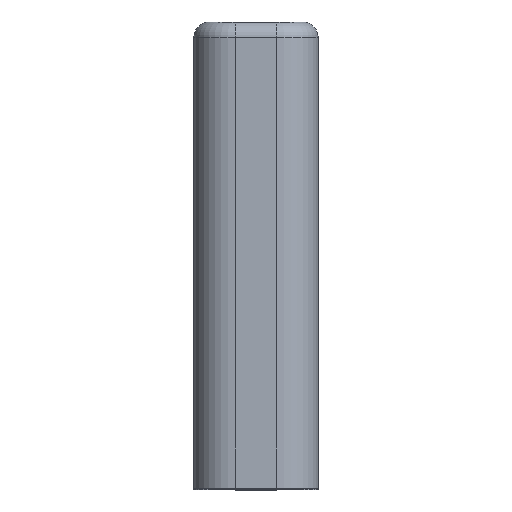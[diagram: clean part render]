
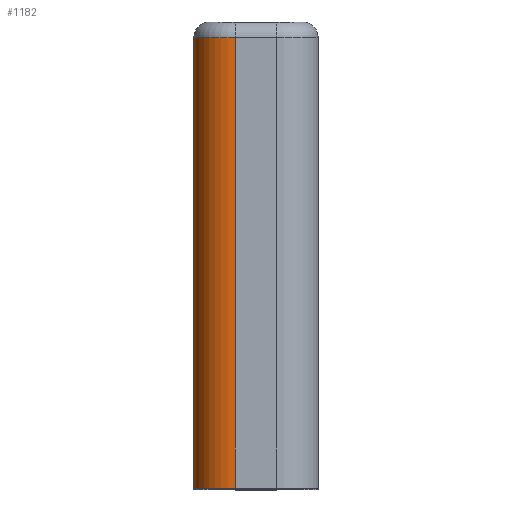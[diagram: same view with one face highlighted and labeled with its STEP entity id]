
A CAD part, top view. The second image highlights one B-rep face of the part: STEP entity #1182.
In plain terms, the highlighted cylindrical face has radius 2.667 mm (diameter 5.333 mm), a partial arc.
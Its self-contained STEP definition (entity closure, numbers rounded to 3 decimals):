
#65 = EDGE_LOOP ( 'NONE', ( #1433, #1564, #1724, #628 ) ) ;
#102 = VECTOR ( 'NONE', #434, 1000. ) ;
#105 = EDGE_CURVE ( 'NONE', #576, #522, #1691, .T. ) ;
#297 = DIRECTION ( 'NONE',  ( 0., -1., 0. ) ) ;
#314 = FACE_OUTER_BOUND ( 'NONE', #65, .T. ) ;
#334 = VECTOR ( 'NONE', #1715, 1000. ) ;
#344 = LINE ( 'NONE', #1800, #102 ) ;
#415 = AXIS2_PLACEMENT_3D ( 'NONE', #431, #2133, #1277 ) ;
#430 = CARTESIAN_POINT ( 'NONE',  ( -5., 0., -1.333 ) ) ;
#431 = CARTESIAN_POINT ( 'NONE',  ( -2.333, 0., -1.333 ) ) ;
#434 = DIRECTION ( 'NONE',  ( 0., -1., 0. ) ) ;
#522 = VERTEX_POINT ( 'NONE', #430 ) ;
#576 = VERTEX_POINT ( 'NONE', #1567 ) ;
#628 = ORIENTED_EDGE ( 'NONE', *, *, #1540, .T. ) ;
#824 = EDGE_CURVE ( 'NONE', #576, #1790, #1811, .T. ) ;
#894 = CARTESIAN_POINT ( 'NONE',  ( -2.333, 0., -4. ) ) ;
#1074 = CIRCLE ( 'NONE', #415, 2.667 ) ;
#1154 = DIRECTION ( 'NONE',  ( 0., -1., 0. ) ) ;
#1182 = ADVANCED_FACE ( 'NONE', ( #314 ), #1542, .T. ) ;
#1277 = DIRECTION ( 'NONE',  ( 0., 0., 1. ) ) ;
#1307 = CARTESIAN_POINT ( 'NONE',  ( -2.333, 29., -1.333 ) ) ;
#1381 = CARTESIAN_POINT ( 'NONE',  ( -5., 30., -1.333 ) ) ;
#1433 = ORIENTED_EDGE ( 'NONE', *, *, #105, .F. ) ;
#1473 = DIRECTION ( 'NONE',  ( 0., 0., -1. ) ) ;
#1534 = AXIS2_PLACEMENT_3D ( 'NONE', #1307, #297, #1810 ) ;
#1540 = EDGE_CURVE ( 'NONE', #2109, #522, #1074, .T. ) ;
#1542 = CYLINDRICAL_SURFACE ( 'NONE', #1678, 2.667 ) ;
#1564 = ORIENTED_EDGE ( 'NONE', *, *, #824, .T. ) ;
#1567 = CARTESIAN_POINT ( 'NONE',  ( -5., 29., -1.333 ) ) ;
#1659 = CARTESIAN_POINT ( 'NONE',  ( -2.333, 30., -1.333 ) ) ;
#1678 = AXIS2_PLACEMENT_3D ( 'NONE', #1659, #1154, #1473 ) ;
#1681 = EDGE_CURVE ( 'NONE', #1790, #2109, #344, .T. ) ;
#1691 = LINE ( 'NONE', #1381, #334 ) ;
#1715 = DIRECTION ( 'NONE',  ( 0., -1., 0. ) ) ;
#1724 = ORIENTED_EDGE ( 'NONE', *, *, #1681, .T. ) ;
#1790 = VERTEX_POINT ( 'NONE', #1887 ) ;
#1800 = CARTESIAN_POINT ( 'NONE',  ( -2.333, 30., -4. ) ) ;
#1810 = DIRECTION ( 'NONE',  ( 0., 0., 1. ) ) ;
#1811 = CIRCLE ( 'NONE', #1534, 2.667 ) ;
#1887 = CARTESIAN_POINT ( 'NONE',  ( -2.333, 29., -4. ) ) ;
#2109 = VERTEX_POINT ( 'NONE', #894 ) ;
#2133 = DIRECTION ( 'NONE',  ( 0., 1., 0. ) ) ;
